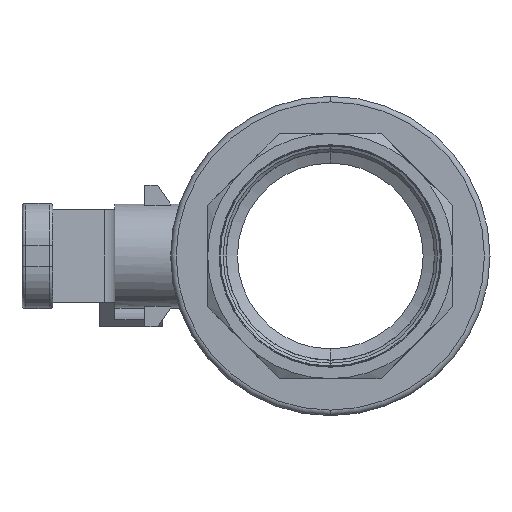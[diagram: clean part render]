
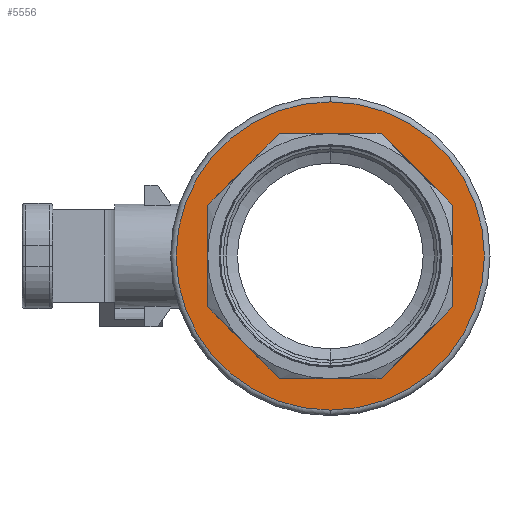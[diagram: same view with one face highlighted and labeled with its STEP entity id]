
A CAD part, left-side view. The second image highlights one B-rep face of the part: STEP entity #5556.
In plain terms, the highlighted planar face has unit normal (-1, 0, 0).
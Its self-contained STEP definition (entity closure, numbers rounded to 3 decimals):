
#605 = VECTOR ( 'NONE', #3995, 1000. ) ;
#607 = VECTOR ( 'NONE', #4016, 1000. ) ;
#610 = VECTOR ( 'NONE', #4037, 1000. ) ;
#614 = VECTOR ( 'NONE', #4059, 1000. ) ;
#616 = VECTOR ( 'NONE', #4079, 1000. ) ;
#1104 = ORIENTED_EDGE ( 'NONE', *, *, #6956, .T. ) ;
#1105 = ORIENTED_EDGE ( 'NONE', *, *, #8695, .T. ) ;
#1106 = ORIENTED_EDGE ( 'NONE', *, *, #3566, .T. ) ;
#1107 = ORIENTED_EDGE ( 'NONE', *, *, #3563, .T. ) ;
#1108 = ORIENTED_EDGE ( 'NONE', *, *, #3559, .T. ) ;
#1109 = ORIENTED_EDGE ( 'NONE', *, *, #3555, .T. ) ;
#1110 = ORIENTED_EDGE ( 'NONE', *, *, #3551, .T. ) ;
#1111 = ORIENTED_EDGE ( 'NONE', *, *, #3547, .T. ) ;
#1112 = ORIENTED_EDGE ( 'NONE', *, *, #3543, .T. ) ;
#1113 = ORIENTED_EDGE ( 'NONE', *, *, #3539, .T. ) ;
#1206 = CIRCLE ( 'NONE', #1210, 41.5 ) ;
#1210 = AXIS2_PLACEMENT_3D ( 'NONE', #4229, #4230, #4231 ) ;
#2510 = CARTESIAN_POINT ( 'NONE',  ( -35.5, 0., 0. ) ) ;
#2511 = DIRECTION ( 'NONE',  ( -1., 0., 0. ) ) ;
#2512 = DIRECTION ( 'NONE',  ( 0., 0., 1. ) ) ;
#3086 = EDGE_LOOP ( 'NONE', ( #1104, #1105 ) ) ;
#3088 = EDGE_LOOP ( 'NONE', ( #1106, #1107, #1108, #1109, #1110, #1111, #1112, #1113 ) ) ;
#3251 = VERTEX_POINT ( 'NONE', #3615 ) ;
#3263 = VERTEX_POINT ( 'NONE', #3621 ) ;
#3279 = VERTEX_POINT ( 'NONE', #3629 ) ;
#3281 = VERTEX_POINT ( 'NONE', #3630 ) ;
#3283 = VERTEX_POINT ( 'NONE', #3631 ) ;
#3287 = VERTEX_POINT ( 'NONE', #3633 ) ;
#3291 = VERTEX_POINT ( 'NONE', #3637 ) ;
#3539 = EDGE_CURVE ( 'NONE', #3251, #3279, #3992, .T. ) ;
#3543 = EDGE_CURVE ( 'NONE', #7667, #3251, #4014, .T. ) ;
#3547 = EDGE_CURVE ( 'NONE', #3281, #7667, #4035, .T. ) ;
#3551 = EDGE_CURVE ( 'NONE', #3283, #3281, #4057, .T. ) ;
#3555 = EDGE_CURVE ( 'NONE', #3287, #3283, #4077, .T. ) ;
#3559 = EDGE_CURVE ( 'NONE', #3291, #3287, #4099, .T. ) ;
#3563 = EDGE_CURVE ( 'NONE', #7660, #3291, #8054, .T. ) ;
#3566 = EDGE_CURVE ( 'NONE', #3279, #7660, #8072, .T. ) ;
#3615 = CARTESIAN_POINT ( 'NONE',  ( -35.5, -33., -13.669 ) ) ;
#3621 = CARTESIAN_POINT ( 'NONE',  ( -35.5, 0., -41.5 ) ) ;
#3629 = CARTESIAN_POINT ( 'NONE',  ( -35.5, -13.669, -33. ) ) ;
#3630 = CARTESIAN_POINT ( 'NONE',  ( -35.5, -13.669, 33. ) ) ;
#3631 = CARTESIAN_POINT ( 'NONE',  ( -35.5, 13.669, 33. ) ) ;
#3633 = CARTESIAN_POINT ( 'NONE',  ( -35.5, 33., 13.669 ) ) ;
#3637 = CARTESIAN_POINT ( 'NONE',  ( -35.5, 33., -13.669 ) ) ;
#3992 = LINE ( 'NONE', #3994, #605 ) ;
#3994 = CARTESIAN_POINT ( 'NONE',  ( -35.5, -33., -13.669 ) ) ;
#3995 = DIRECTION ( 'NONE',  ( 0., 0.707, -0.707 ) ) ;
#4014 = LINE ( 'NONE', #4015, #607 ) ;
#4015 = CARTESIAN_POINT ( 'NONE',  ( -35.5, -33., 13.669 ) ) ;
#4016 = DIRECTION ( 'NONE',  ( 0., 0., -1. ) ) ;
#4035 = LINE ( 'NONE', #4036, #610 ) ;
#4036 = CARTESIAN_POINT ( 'NONE',  ( -35.5, -13.669, 33. ) ) ;
#4037 = DIRECTION ( 'NONE',  ( 0., -0.707, -0.707 ) ) ;
#4057 = LINE ( 'NONE', #4058, #614 ) ;
#4058 = CARTESIAN_POINT ( 'NONE',  ( -35.5, 13.669, 33. ) ) ;
#4059 = DIRECTION ( 'NONE',  ( 0., -1., 0. ) ) ;
#4077 = LINE ( 'NONE', #4078, #616 ) ;
#4078 = CARTESIAN_POINT ( 'NONE',  ( -35.5, 33., 13.669 ) ) ;
#4079 = DIRECTION ( 'NONE',  ( 0., -0.707, 0.707 ) ) ;
#4099 = LINE ( 'NONE', #4100, #7169 ) ;
#4100 = CARTESIAN_POINT ( 'NONE',  ( -35.5, 33., -13.669 ) ) ;
#4101 = DIRECTION ( 'NONE',  ( 0., 0., 1. ) ) ;
#4229 = CARTESIAN_POINT ( 'NONE',  ( -35.5, 0., 0. ) ) ;
#4230 = DIRECTION ( 'NONE',  ( -1., 0., 0. ) ) ;
#4231 = DIRECTION ( 'NONE',  ( 0., 0., 1. ) ) ;
#5556 = ADVANCED_FACE ( 'NONE', ( #8431, #8434 ), #8435, .F. ) ;
#5687 = CIRCLE ( 'NONE', #5690, 41.5 ) ;
#5690 = AXIS2_PLACEMENT_3D ( 'NONE', #2510, #2511, #2512 ) ;
#6956 = EDGE_CURVE ( 'NONE', #7664, #3263, #1206, .T. ) ;
#7169 = VECTOR ( 'NONE', #4101, 1000. ) ;
#7170 = VECTOR ( 'NONE', #8056, 1000. ) ;
#7172 = VECTOR ( 'NONE', #8074, 1000. ) ;
#7212 = AXIS2_PLACEMENT_3D ( 'NONE', #8430, #8437, #8438 ) ;
#7660 = VERTEX_POINT ( 'NONE', #8886 ) ;
#7664 = VERTEX_POINT ( 'NONE', #8890 ) ;
#7667 = VERTEX_POINT ( 'NONE', #8893 ) ;
#8054 = LINE ( 'NONE', #8055, #7170 ) ;
#8055 = CARTESIAN_POINT ( 'NONE',  ( -35.5, 13.669, -33. ) ) ;
#8056 = DIRECTION ( 'NONE',  ( 0., 0.707, 0.707 ) ) ;
#8072 = LINE ( 'NONE', #8073, #7172 ) ;
#8073 = CARTESIAN_POINT ( 'NONE',  ( -35.5, -13.669, -33. ) ) ;
#8074 = DIRECTION ( 'NONE',  ( 0., 1., 0. ) ) ;
#8430 = CARTESIAN_POINT ( 'NONE',  ( -35.5, 0., 0. ) ) ;
#8431 = FACE_OUTER_BOUND ( 'NONE', #3086, .T. ) ;
#8434 = FACE_BOUND ( 'NONE', #3088, .T. ) ;
#8435 = PLANE ( 'NONE',  #7212 ) ;
#8437 = DIRECTION ( 'NONE',  ( 1., 0., 0. ) ) ;
#8438 = DIRECTION ( 'NONE',  ( 0., 0., -1. ) ) ;
#8695 = EDGE_CURVE ( 'NONE', #3263, #7664, #5687, .T. ) ;
#8886 = CARTESIAN_POINT ( 'NONE',  ( -35.5, 13.669, -33. ) ) ;
#8890 = CARTESIAN_POINT ( 'NONE',  ( -35.5, 0., 41.5 ) ) ;
#8893 = CARTESIAN_POINT ( 'NONE',  ( -35.5, -33., 13.669 ) ) ;
